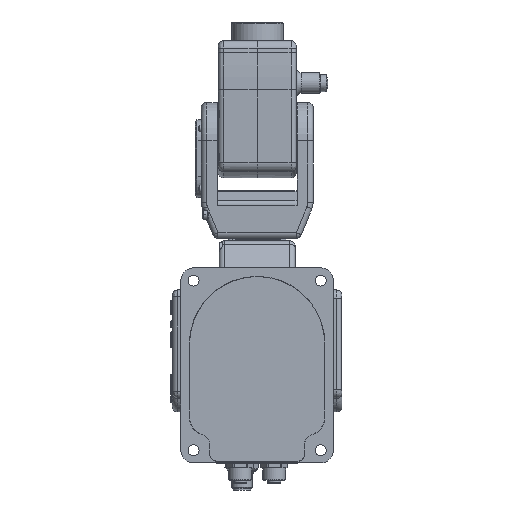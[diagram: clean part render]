
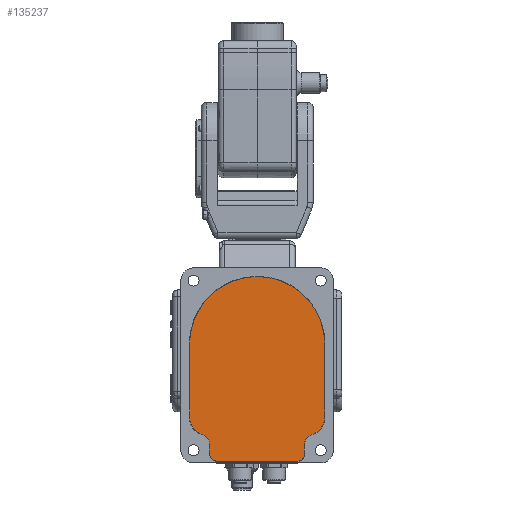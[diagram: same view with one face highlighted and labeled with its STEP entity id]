
A CAD part, front view. The second image highlights one B-rep face of the part: STEP entity #135237.
In plain terms, the highlighted planar face has unit normal (0, -1, 0).
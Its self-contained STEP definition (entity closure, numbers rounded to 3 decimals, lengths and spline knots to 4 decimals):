
#18272=FACE_OUTER_BOUND('',#26108,.T.);
#26108=EDGE_LOOP('',(#92988,#92989,#92990,#92991,#92992,#92993,#92994,#92995,
#92996,#92997,#92998,#92999));
#34936=CIRCLE('',#143520,0.4291);
#34937=CIRCLE('',#143523,1.5709);
#34938=CIRCLE('',#143526,0.4291);
#34939=CIRCLE('',#143528,0.2402);
#34940=CIRCLE('',#143531,0.1535);
#34941=CIRCLE('',#143534,0.1535);
#34942=CIRCLE('',#143537,0.2402);
#36909=LINE('',#177582,#48814);
#36912=LINE('',#177590,#48817);
#36916=LINE('',#177602,#48821);
#36919=LINE('',#177610,#48824);
#36922=LINE('',#177618,#48827);
#48814=VECTOR('',#151136,0.3937);
#48817=VECTOR('',#151145,0.3937);
#48821=VECTOR('',#151159,0.3937);
#48824=VECTOR('',#151168,0.3937);
#48827=VECTOR('',#151177,0.3937);
#60767=VERTEX_POINT('',#177575);
#60768=VERTEX_POINT('',#177576);
#60769=VERTEX_POINT('',#177581);
#60770=VERTEX_POINT('',#177585);
#60771=VERTEX_POINT('',#177589);
#60772=VERTEX_POINT('',#177593);
#60773=VERTEX_POINT('',#177597);
#60774=VERTEX_POINT('',#177601);
#60775=VERTEX_POINT('',#177605);
#60776=VERTEX_POINT('',#177609);
#60777=VERTEX_POINT('',#177613);
#60778=VERTEX_POINT('',#177617);
#73367=EDGE_CURVE('',#60767,#60768,#34936,.T.);
#73370=EDGE_CURVE('',#60769,#60767,#36909,.T.);
#73372=EDGE_CURVE('',#60770,#60769,#34937,.T.);
#73374=EDGE_CURVE('',#60771,#60770,#36912,.T.);
#73376=EDGE_CURVE('',#60772,#60771,#34938,.T.);
#73378=EDGE_CURVE('',#60773,#60772,#34939,.T.);
#73380=EDGE_CURVE('',#60774,#60773,#36916,.T.);
#73382=EDGE_CURVE('',#60775,#60774,#34940,.T.);
#73384=EDGE_CURVE('',#60776,#60775,#36919,.T.);
#73386=EDGE_CURVE('',#60777,#60776,#34941,.T.);
#73388=EDGE_CURVE('',#60778,#60777,#36922,.T.);
#73390=EDGE_CURVE('',#60768,#60778,#34942,.T.);
#92988=ORIENTED_EDGE('',*,*,#73367,.T.);
#92989=ORIENTED_EDGE('',*,*,#73390,.T.);
#92990=ORIENTED_EDGE('',*,*,#73388,.T.);
#92991=ORIENTED_EDGE('',*,*,#73386,.T.);
#92992=ORIENTED_EDGE('',*,*,#73384,.T.);
#92993=ORIENTED_EDGE('',*,*,#73382,.T.);
#92994=ORIENTED_EDGE('',*,*,#73380,.T.);
#92995=ORIENTED_EDGE('',*,*,#73378,.T.);
#92996=ORIENTED_EDGE('',*,*,#73376,.T.);
#92997=ORIENTED_EDGE('',*,*,#73374,.T.);
#92998=ORIENTED_EDGE('',*,*,#73372,.T.);
#92999=ORIENTED_EDGE('',*,*,#73370,.T.);
#131318=PLANE('',#143538);
#135237=ADVANCED_FACE('',(#18272),#131318,.F.);
#143520=AXIS2_PLACEMENT_3D('',#177577,#151130,#151131);
#143523=AXIS2_PLACEMENT_3D('',#177586,#151140,#151141);
#143526=AXIS2_PLACEMENT_3D('',#177594,#151149,#151150);
#143528=AXIS2_PLACEMENT_3D('',#177598,#151154,#151155);
#143531=AXIS2_PLACEMENT_3D('',#177606,#151163,#151164);
#143534=AXIS2_PLACEMENT_3D('',#177614,#151172,#151173);
#143537=AXIS2_PLACEMENT_3D('',#177621,#151181,#151182);
#143538=AXIS2_PLACEMENT_3D('',#177622,#151183,#151184);
#151130=DIRECTION('center_axis',(0.,-1.,0.));
#151131=DIRECTION('ref_axis',(0.294,0.,0.956));
#151136=DIRECTION('',(0.,0.,-1.));
#151140=DIRECTION('center_axis',(0.,-1.,0.));
#151141=DIRECTION('ref_axis',(1.,0.,0.));
#151145=DIRECTION('',(0.,0.,1.));
#151149=DIRECTION('center_axis',(0.,-1.,0.));
#151150=DIRECTION('ref_axis',(-1.,0.,0.));
#151154=DIRECTION('center_axis',(0.,1.,0.));
#151155=DIRECTION('ref_axis',(-1.,0.,0.));
#151159=DIRECTION('',(0.,0.,1.));
#151163=DIRECTION('center_axis',(0.,-1.,0.));
#151164=DIRECTION('ref_axis',(-1.,0.,0.));
#151168=DIRECTION('',(1.,0.,0.));
#151172=DIRECTION('center_axis',(0.,-1.,0.));
#151173=DIRECTION('ref_axis',(0.,0.,
1.));
#151177=DIRECTION('',(0.,0.,-1.));
#151181=DIRECTION('center_axis',(0.,1.,0.));
#151182=DIRECTION('ref_axis',(0.294,0.,0.956));
#151183=DIRECTION('center_axis',(0.,1.,0.));
#151184=DIRECTION('ref_axis',(0.,0.,
1.));
#177575=CARTESIAN_POINT('',(-1.5709,-3.5083,-1.6929));
#177576=CARTESIAN_POINT('',(-1.2679,-3.5083,-2.1031));
#177577=CARTESIAN_POINT('Origin',(-1.1417,-3.5083,-1.6929));
#177581=CARTESIAN_POINT('',(-1.5709,-3.5083,0.));
#177582=CARTESIAN_POINT('',(-1.5709,-3.5083,0.));
#177585=CARTESIAN_POINT('',(1.5709,-3.5083,0.));
#177586=CARTESIAN_POINT('Origin',(0.,-3.5083,
0.));
#177589=CARTESIAN_POINT('',(1.5709,-3.5083,-1.6929));
#177590=CARTESIAN_POINT('',(1.5709,-3.5083,-1.6929));
#177593=CARTESIAN_POINT('',(1.2679,-3.5083,-2.1031));
#177594=CARTESIAN_POINT('Origin',(1.1417,-3.5083,-1.6929));
#177597=CARTESIAN_POINT('',(1.0984,-3.5083,-2.3326));
#177598=CARTESIAN_POINT('Origin',(1.3386,-3.5083,-2.3326));
#177601=CARTESIAN_POINT('',(1.0984,-3.5083,-2.5591));
#177602=CARTESIAN_POINT('',(1.0984,-3.5083,-2.5591));
#177605=CARTESIAN_POINT('',(0.9449,-3.5083,-2.7126));
#177606=CARTESIAN_POINT('Origin',(0.9449,-3.5083,-2.5591));
#177609=CARTESIAN_POINT('',(-0.9449,-3.5083,-2.7126));
#177610=CARTESIAN_POINT('',(-0.9449,-3.5083,-2.7126));
#177613=CARTESIAN_POINT('',(-1.0984,-3.5083,-2.5591));
#177614=CARTESIAN_POINT('Origin',(-0.9449,-3.5083,
-2.5591));
#177617=CARTESIAN_POINT('',(-1.0984,-3.5083,-2.3326));
#177618=CARTESIAN_POINT('',(-1.0984,-3.5083,-2.3326));
#177621=CARTESIAN_POINT('Origin',(-1.3386,-3.5083,-2.3326));
#177622=CARTESIAN_POINT('Origin',(0.,-3.5083,
-0.8085));
